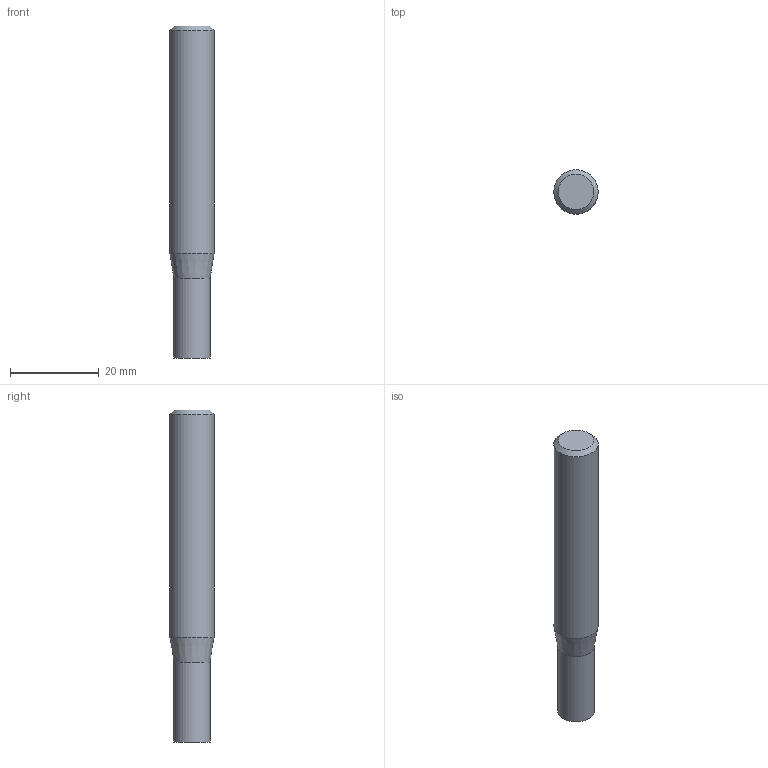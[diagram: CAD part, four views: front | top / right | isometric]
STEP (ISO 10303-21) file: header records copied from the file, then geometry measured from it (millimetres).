
FILE_DESCRIPTION((''),'2;1');
FILE_NAME('C:\Users\nsx150\AppData\Local\Temp\Mastercam 2021\98T1Q6BTT1\TEMP.step','2021-10-21T14:49:36',(''),(''),'STEP Write','Mastercam 2021 ... CNC Software, Inc.','');
FILE_SCHEMA(('AUTOMOTIVE_DESIGN'));
Length unit declared in the file: millimetre
Products named in the file (1): None
Bounding box: 10 x 10 x 75 mm (x, y, z)
Volume: 5337.2 mm3; surface area: 2457.6 mm2
Topology: 2 solids, 2 shells, 8 faces, 10 edges, 6 vertices
Faces by surface type: plane 4, cylinder 2, cone 2
Full cylindrical faces by diameter (mm): 8.2 x1, 10 x1
Entity records: 190 total; most frequent: DIRECTION 32, CARTESIAN_POINT 22, AXIS2_PLACEMENT_3D 16, ORIENTED_EDGE 12, EDGE_LOOP 12, STYLED_ITEM 11, ADVANCED_FACE 8, VERTEX_POINT 6
